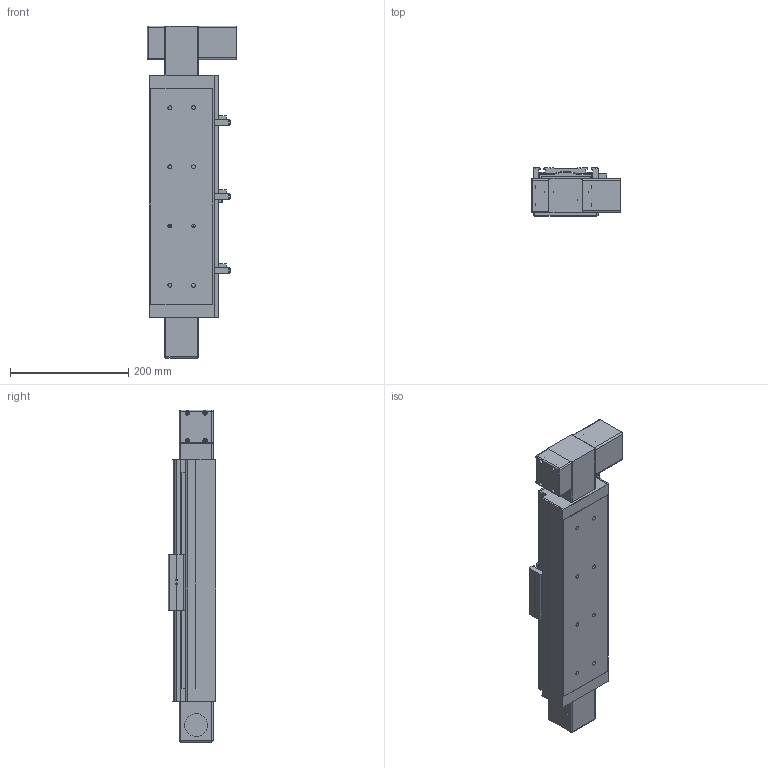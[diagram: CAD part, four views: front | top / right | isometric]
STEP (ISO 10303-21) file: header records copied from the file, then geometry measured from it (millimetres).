
FILE_DESCRIPTION((''),'2;1');
FILE_NAME('E:\uia actuator\UIA actuator 3d- 2015\Belt drive actuator\UIA110BR12(15)DC\UIA110BR12(15)DC-STEP FILE\UIA110BR12(15) stp file 13May16\UIA110BR12(15)DC-250-M23-P13-C10-S.stp','2016-05-13T14:47:42',('h029'),(''),'Autodesk Inventor 11','Autodesk Inventor 11','');
FILE_SCHEMA(('AUTOMOTIVE_DESIGN { 1 0 10303 214 1 1 1 1 }'));
Length unit declared in the file: millimetre
Products named in the file (11): UIA110BR12(15)DC-250; UIA110BR12(15)DC-250-body; UIA110BR12(15)DC-250-Sensor rail; UIA110B-Carriage; UIA110B- Sensor Flag; UIA110B-Cover; SOH-32C; SOH-32C-3; SOH-32C-1; SOH-32C-2; Motor mount
Assembly tree (10 placements, depth 3):
  UIA110BR12(15)DC-250
    UIA110BR12(15)DC-250-body
    UIA110BR12(15)DC-250-Sensor rail
    UIA110B-Carriage
    UIA110B- Sensor Flag
    UIA110B-Cover
    SOH-32C
      SOH-32C-3
      SOH-32C-1
      SOH-32C-2
    Motor mount
Bounding box: 152 x 81 x 561 mm (x, y, z)
Volume: 2101412.7 mm3; surface area: 519258.2 mm2
Topology: 9 solids, 13 shells, 708 faces, 1978 edges, 1276 vertices
Faces by surface type: plane 447, cylinder 171, cone 42, bspline 40, sphere 8
Full cylindrical faces by diameter (mm): 2.459 x4, 3 x2, 3.242 x8, 3.5 x4, 4 x10, 4.5 x4, 4.917 x8, 5 x2, 6.35 x1, 6.5 x8, 7.5 x4, 10 x3, 11 x8, 12 x1, 20 x2, 32 x3, 37 x1, 38.1 x1, 39 x2, 43.5 x1, 46 x2
Entity records: 23098 total; most frequent: CARTESIAN_POINT 5449, DIRECTION 3603, ORIENTED_EDGE 3462, EDGE_CURVE 1731, AXIS2_PLACEMENT_3D 1216, VERTEX_POINT 1192, VECTOR 1171, LINE 1171
